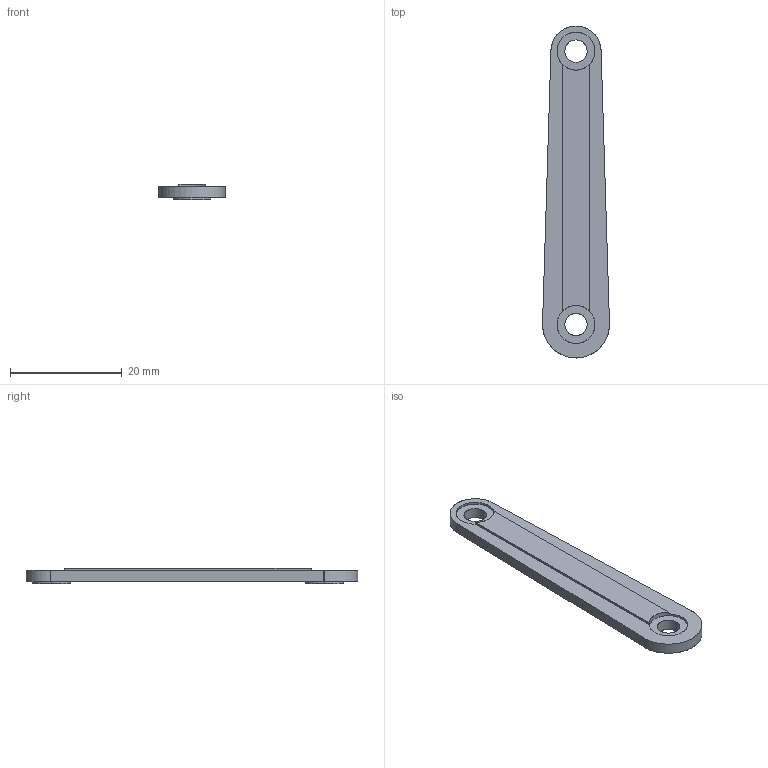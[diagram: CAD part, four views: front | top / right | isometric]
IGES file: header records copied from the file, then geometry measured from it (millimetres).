
Start section: SolidWorks IGES FILE using analytic representation for surfaces
Global section: file name: C:\Documents and Settings\lecoutey\Bureau\GR 2004\2004.060.00.IGS; native system: SolidWorks 2004 by SolidWorks Corporation; preprocessor: Version 5.3; author: lecoutey; date: 050405.100812; units: millimetre
Bounding box: 12 x 59.5 x 2.8 mm (x, y, z)
Surface area: 1581.7 mm2 (no closed solid volume)
Topology: 0 solids, 0 shells, 30 faces, 568 edges, 568 vertices
Faces by surface type: revolution 16, bspline 14
